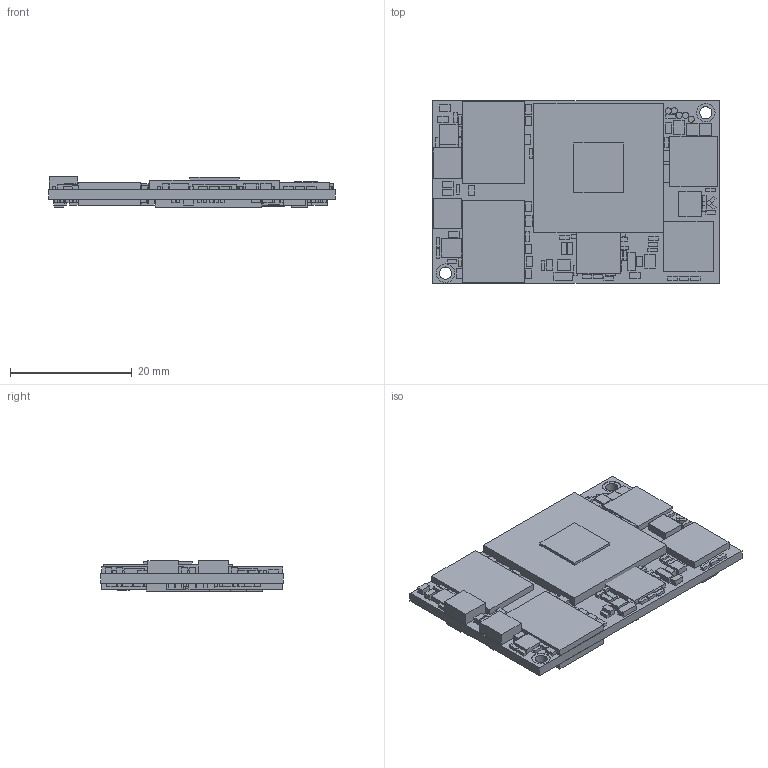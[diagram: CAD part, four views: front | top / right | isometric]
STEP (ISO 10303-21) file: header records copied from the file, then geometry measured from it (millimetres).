
FILE_DESCRIPTION (( 'STEP AP203' ), '1' );
FILE_NAME ('mSOM-1.3 ASSY.STEP', '2015-04-30T10:58:37', ( '' ), ( '' ), 'SwSTEP 2.0', 'SolidWorks 2014', '' );
FILE_SCHEMA (( 'CONFIG_CONTROL_DESIGN' ));
Length unit declared in the file: millimetre
Products named in the file (4): mSOM-1.3 ASSY; DF40C-80DP; IMS6-SOM-1.3; DF40C-70DP
Assembly tree (4 placements, depth 2):
  mSOM-1.3 ASSY
    IMS6-SOM-1.3
    DF40C-70DP
    DF40C-80DP  x2
Bounding box: 47 x 30 x 5.01 mm (x, y, z)
Volume: 4401.8 mm3; surface area: 8608.7 mm2
Topology: 243 solids, 243 shells, 4602 faces, 12246 edges, 8144 vertices
Faces by surface type: plane 3496, cylinder 1058, bspline 36, cone 12
Entity records: 105810 total; most frequent: CARTESIAN_POINT 19158, ORIENTED_EDGE 18016, DIRECTION 17300, EDGE_CURVE 9008, LINE 7528, VECTOR 7528, VERTEX_POINT 5992, AXIS2_PLACEMENT_3D 4886
